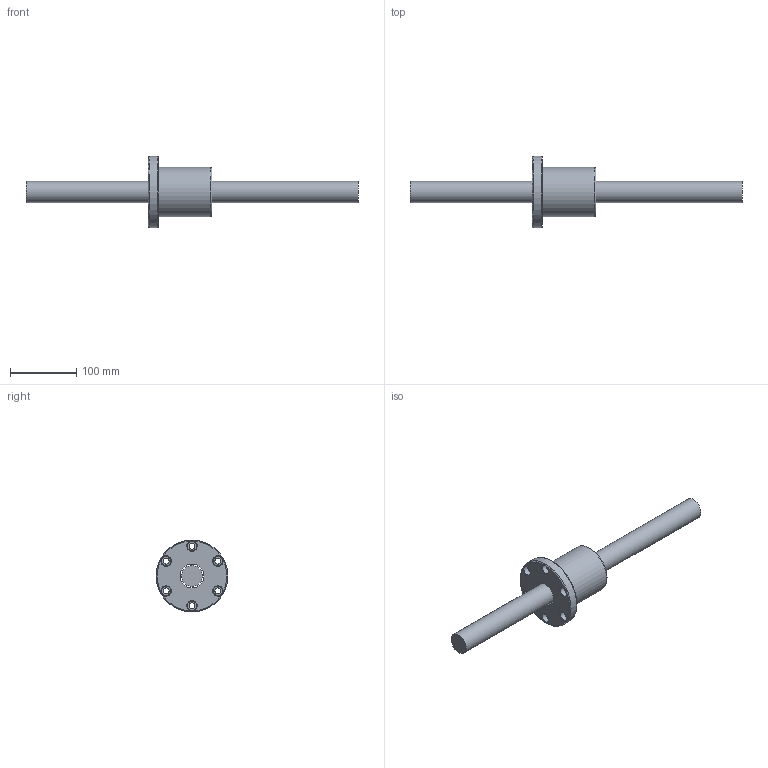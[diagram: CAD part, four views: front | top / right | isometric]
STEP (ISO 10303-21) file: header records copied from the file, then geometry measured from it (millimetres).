
FILE_DESCRIPTION (( 'STEP AP203' ), '1' );
FILE_NAME ('SFV03210N-4.8.step', '2024-05-20T03:39:18', ( '' ), ( '' ), 'SwSTEP 2.0', 'SolidWorks 2022', '' );
FILE_SCHEMA (( 'CONFIG_CONTROL_DESIGN' ));
Length unit declared in the file: millimetre
Products named in the file (1): SFV03210N-4.8
Bounding box: 500 x 108 x 108 mm (x, y, z)
Volume: 777751.2 mm3; surface area: 105383.4 mm2
Topology: 2 solids, 2 shells, 57 faces, 147 edges, 95 vertices
Faces by surface type: cylinder 24, cone 13, plane 12, bspline 5, torus 3
Full cylindrical faces by diameter (mm): 4 x1, 7 x6, 9 x6, 14 x6, 32 x1, 36.1 x1, 74 x1, 108 x1
Entity records: 3796 total; most frequent: CARTESIAN_POINT 2739, DIRECTION 204, ORIENTED_EDGE 152, EDGE_LOOP 102, AXIS2_PLACEMENT_3D 101, EDGE_CURVE 76, FACE_OUTER_BOUND 72, VERTEX_POINT 66
